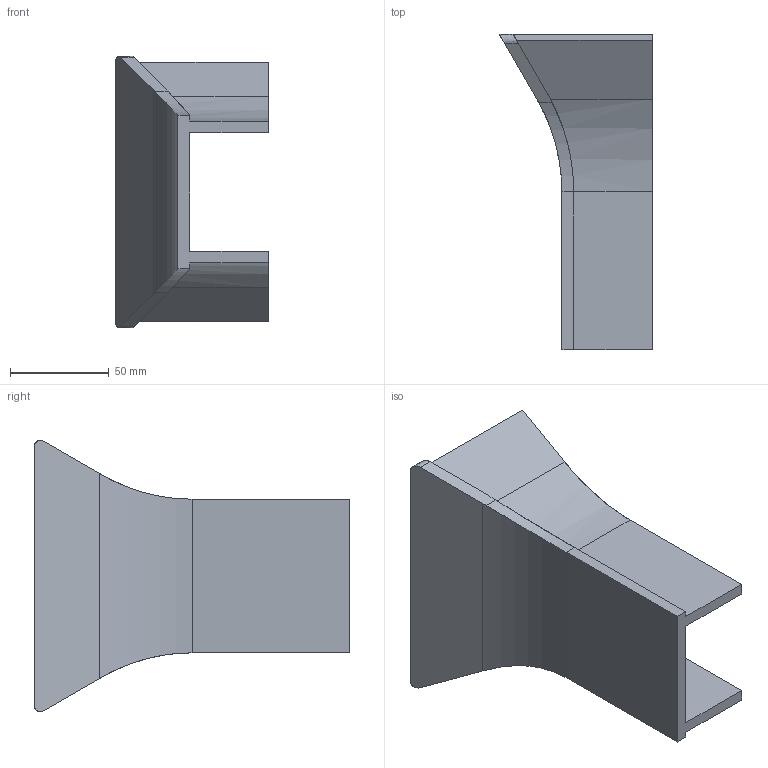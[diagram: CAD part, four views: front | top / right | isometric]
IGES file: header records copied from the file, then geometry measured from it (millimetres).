
Global section: file name: E:\UnigraphicsGraphicData\MISUMI_PRESS-PARTS\IGES\3d_cilg-80-40-60_00260_r00.igs; native system: NX V5.0; preprocessor: UGS NX IGES V5.0; author: MISUMI; date: 20110105.160246; units: millimetre
Bounding box: 77.65 x 160 x 137.89 mm (x, y, z)
Surface area: 65347.6 mm2 (no closed solid volume)
Topology: 0 solids, 0 shells, 38 faces, 214 edges, 214 vertices
Faces by surface type: bspline 38
